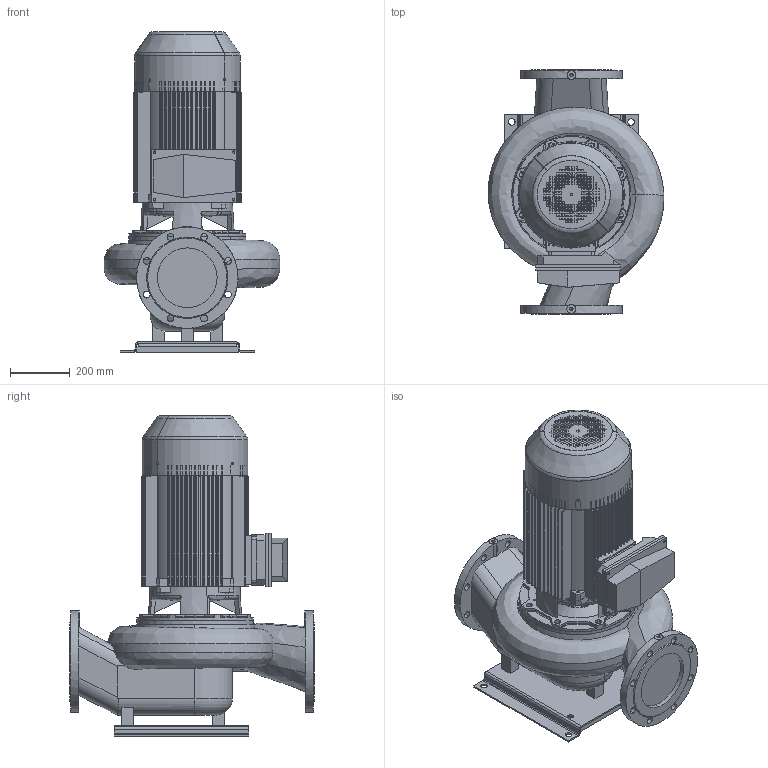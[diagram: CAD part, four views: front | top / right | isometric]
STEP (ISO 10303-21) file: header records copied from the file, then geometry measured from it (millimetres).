
FILE_DESCRIPTION(('STEP AP214'),'1');
FILE_NAME('export.stp','2018-05-28T10:55:10',(' '),(' '),'Spatial InterOp 3D',' ',' ');
FILE_SCHEMA(('AUTOMOTIVE_DESIGN { 1 0 10303 214 1 1 1 1 }'));
Length unit declared in the file: millimetre
Products named in the file (13): W_AL12024220KP187; V_TLL100SAL1202; V_PPAL1202; P100464; P100462; P101191; V_MKP187-K2-BF32; R201280; R200132; R200136; R200138; R200137; R201121
Assembly tree (13 placements, depth 3):
  W_AL12024220KP187
    V_TLL100SAL1202
    V_PPAL1202
    P100464
      P100462
      P101191  x2
    V_MKP187-K2-BF32
      R201280
      R200132
      R200136
      R200138
      R200137
      R201121
Bounding box: 589.13 x 820.22 x 1074.5 mm (x, y, z)
Volume: 77405448.1 mm3; surface area: 5973982.4 mm2
Topology: 11 solids, 11 shells, 2302 faces, 6727 edges, 4437 vertices
Faces by surface type: plane 1288, cylinder 845, cone 66, torus 65, bspline 27, sphere 11
Entity records: 116422 total; most frequent: CARTESIAN_POINT 19101, ORIENTED_EDGE 13248, DIRECTION 12797, EDGE_CURVE 6624, STYLED_ITEM 5551, PRESENTATION_STYLE_ASSIGNMENT 5551, COLOUR_RGB 5551, VERTEX_POINT 4385
